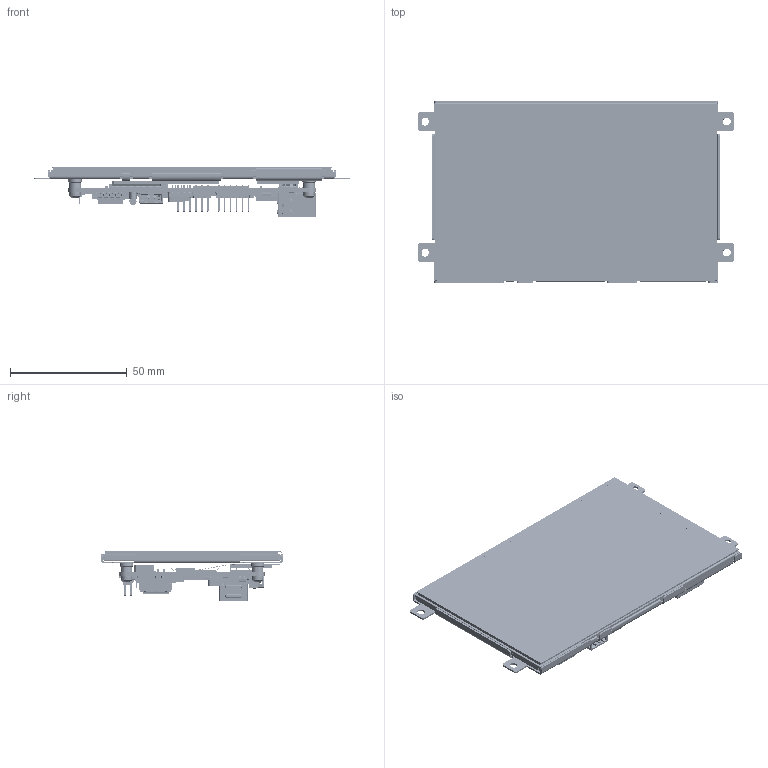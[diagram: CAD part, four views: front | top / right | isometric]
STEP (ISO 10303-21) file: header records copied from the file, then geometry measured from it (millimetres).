
FILE_DESCRIPTION(/* description */ (''),/* implementation_level */ '2;1');
FILE_NAME(/* name */ 'D:\systart\display-board\austausch\export\DCB50H_01_X.stp',/* time_stamp */ '2020-12-21T17:50:45+01:00',/* author */ ('axel'),/* organization */ (''),/* preprocessor_version */ 'ST-DEVELOPER v18.1',/* originating_system */ 'Autodesk Inventor 2021',/* authorisation */ '');
FILE_SCHEMA (('AUTOMOTIVE_DESIGN { 1 0 10303 214 3 1 1 }'));
Products named in the file (1): Bauteil1
Bounding box: 135 x 77.8 x 21.78 mm (x, y, z)
Volume: 63579.4 mm3; surface area: 103963.5 mm2
Topology: 298 solids, 3003 shells, 16314 faces, 50108 edges, 37366 vertices
Faces by surface type: plane 12701, cylinder 2377, bspline 919, sphere 164, torus 79, cone 74
Full cylindrical faces by diameter (mm): 0.1 x25, 0.15 x30, 0.18 x3, 0.181 x1, 0.3 x1, 0.35 x1, 0.394 x1, 0.4 x1, 0.412 x5, 0.5 x2, 0.65 x9, 0.8 x22, 0.92 x8, 1 x3, 1.04 x1, 1.1 x21, 1.25 x7, 1.3 x4, 1.4 x1, 1.5 x2, 1.6 x1, 2 x1, 2.013 x4, 2.25 x1, 2.5 x4, 2.7 x8, 3.1 x2, 3.5 x4, 3.79 x4, 3.8 x4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
Entity records: 593464 total; most frequent: CARTESIAN_POINT 137121, ORIENTED_EDGE 85081, DIRECTION 84595, EDGE_CURVE 49936, LINE 43029, VECTOR 43029, VERTEX_POINT 37366, AXIS2_PLACEMENT_3D 20783
